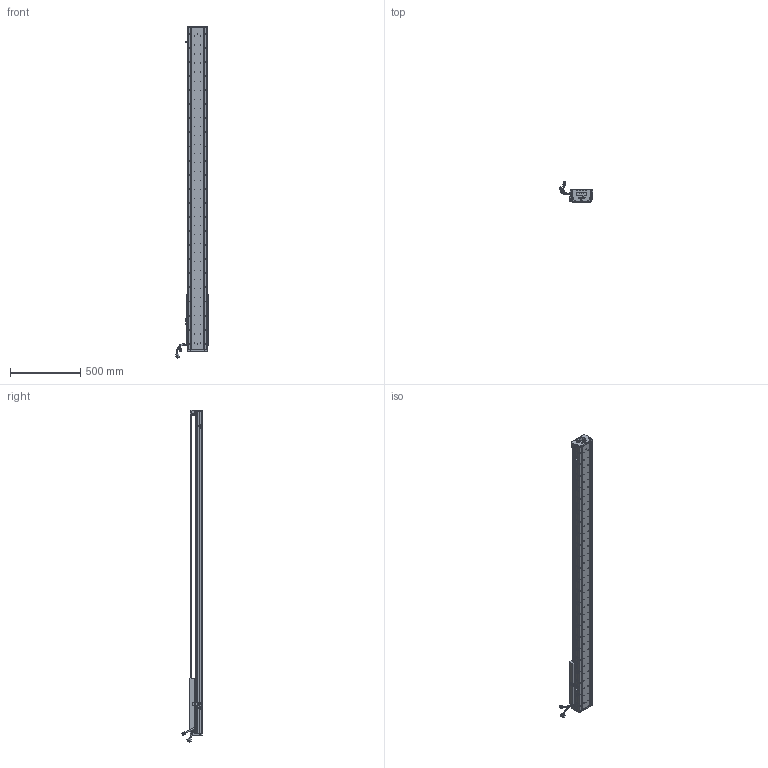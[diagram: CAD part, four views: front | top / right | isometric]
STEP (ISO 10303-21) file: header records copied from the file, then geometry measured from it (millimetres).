
FILE_DESCRIPTION (( 'STEP AP203' ), '1' );
FILE_NAME ('Z5-RY140D-1-L500-B-K.SLDASM_1850.step', '2021-05-17T08:37:59', ( '盈信电脑' ), ( '东莞市道滘镇水果街19号' ), 'SwSTEP 2.0', 'SolidWorks 2016', '' );
FILE_SCHEMA (( 'CONFIG_CONTROL_DESIGN' ));
Length unit declared in the file: millimetre
Products named in the file (36): COVER-Part-1; PBU_SHEET; Z-140詩湍傷裔啣; COVER; Z5-RY140-L500詩湍100mm遵_1850; SEAL; SCREW-M1.6-3; PSLH080_PSLF2; SCALE-Part-2; 140-Z-臏賑輸盄裔(21遴); LABEL; 覜茼ん672; HOLDER0; SHIELDPLATE; SCREW-M1.7; Z-RY140感应器672光电感应片; 140雄赽晤鎢ん堤盄; SEAL-Part-1; LABEL-Part-1; HARNESS; SCREW-M1.6-2; Z5-RY140圉猾敕臏賑輸(21遴); SCREW-M1.7-1; HARNESS-Part-2; 詩湍奻揤裔; SCALE-Part-1; 詩湍狟揤裔; 榋妏寠巭燃_暯_M2_2; SCREW-M1.6-1; 140蚥薯蝶輸; HARNESS-Part-1; Z5-RY140-L500直线电机模组底座_1850; Z5-RY140D-1-L500-B-K.SLDASM_1850; SCALE; SCREW-M1.6; 080黍杅芛假蚾釱21遴
Assembly tree (41 placements, depth 4):
  Z5-RY140D-1-L500-B-K.SLDASM_1850
    Z5-RY140-L500直线电机模组底座_1850
    Z-RY140感应器672光电感应片
    Z5-RY140圉猾敕臏賑輸(21遴)
    覜茼ん672  x3
    Z5-RY140-L500詩湍100mm遵_1850
    PSLH080_PSLF2
      SCALE
        SCALE-Part-1
        SCALE-Part-2
      HARNESS
        HARNESS-Part-1
        HARNESS-Part-2
      LABEL
        LABEL-Part-1
      COVER
        COVER-Part-1
      SEAL
        SEAL-Part-1
      榋妏寠巭燃_暯_M2_2
      SHIELDPLATE
      SCREW-M1.7
      SCREW-M1.7-1
      PBU_SHEET
      SCREW-M1.6
      SCREW-M1.6-1
      SCREW-M1.6-2
      SCREW-M1.6-3
      HOLDER0
    080黍杅芛假蚾釱21遴
    140-Z-臏賑輸盄裔(21遴)
    Z-140詩湍傷裔啣  x2
    詩湍狟揤裔  x2
    詩湍奻揤裔  x2
    140蚥薯蝶輸  x2
    140雄赽晤鎢ん堤盄
Bounding box: 239.84 x 143.88 x 2355.87 mm (x, y, z)
Volume: 8056637.2 mm3; surface area: 2057501.5 mm2
Topology: 36 solids, 36 shells, 3962 faces, 10726 edges, 6799 vertices
Faces by surface type: cylinder 2120, plane 1338, cone 382, torus 69, bspline 53
Entity records: 124454 total; most frequent: CARTESIAN_POINT 34499, ORIENTED_EDGE 18412, DIRECTION 17270, EDGE_CURVE 9206, AXIS2_PLACEMENT_3D 6434, VERTEX_POINT 5967, VECTOR 4402, LINE 4402
